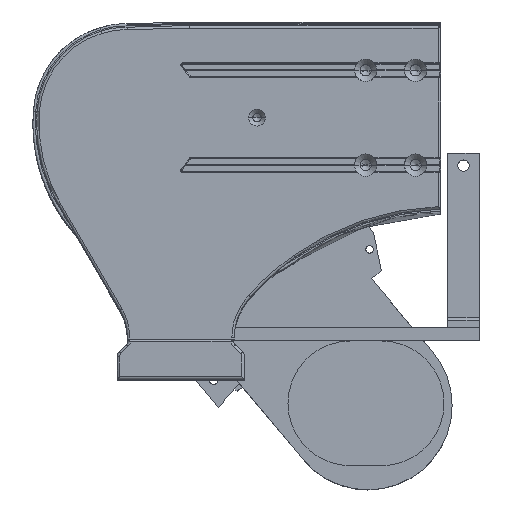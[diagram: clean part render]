
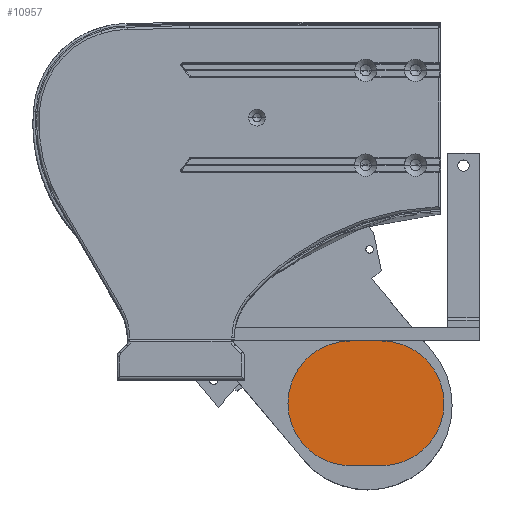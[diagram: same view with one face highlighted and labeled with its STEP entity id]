
A CAD part, top view. The second image highlights one B-rep face of the part: STEP entity #10957.
In plain terms, the highlighted planar face has unit normal (0, 0, 1).
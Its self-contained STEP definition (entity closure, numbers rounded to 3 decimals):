
#1140 = CIRCLE ( 'NONE', #23601, 65.5 ) ;
#1924 = VECTOR ( 'NONE', #9884, 1000. ) ;
#2427 = DIRECTION ( 'NONE',  ( 1., 0., 0. ) ) ;
#3298 = VECTOR ( 'NONE', #8084, 1000. ) ;
#4469 = VERTEX_POINT ( 'NONE', #7620 ) ;
#5549 = CARTESIAN_POINT ( 'NONE',  ( 50.176, 42.102, -318. ) ) ;
#5602 = CARTESIAN_POINT ( 'NONE',  ( 243.011, -187.712, -318. ) ) ;
#6542 = DIRECTION ( 'NONE',  ( 1., 0., 0. ) ) ;
#7346 = PLANE ( 'NONE',  #8934 ) ;
#7620 = CARTESIAN_POINT ( 'NONE',  ( -50.176, -42.102, -318. ) ) ;
#8084 = DIRECTION ( 'NONE',  ( -0.643, 0.766, 0. ) ) ;
#8934 = AXIS2_PLACEMENT_3D ( 'NONE', #18638, #11672, #18444 ) ;
#9884 = DIRECTION ( 'NONE',  ( 0.643, -0.766, 0. ) ) ;
#10073 = LINE ( 'NONE', #5602, #3298 ) ;
#10698 = ORIENTED_EDGE ( 'NONE', *, *, #27674, .T. ) ;
#10833 = CARTESIAN_POINT ( 'NONE',  ( 192.835, -229.814, -318. ) ) ;
#10857 = LINE ( 'NONE', #28156, #1924 ) ;
#10957 = ADVANCED_FACE ( 'NONE', ( #11741 ), #7346, .T. ) ;
#11305 = CARTESIAN_POINT ( 'NONE',  ( 0., 0., -318. ) ) ;
#11672 = DIRECTION ( 'NONE',  ( 0., 0., 1. ) ) ;
#11741 = FACE_OUTER_BOUND ( 'NONE', #13144, .T. ) ;
#13144 = EDGE_LOOP ( 'NONE', ( #19956, #10698, #25875, #17906, #21312 ) ) ;
#13602 = CIRCLE ( 'NONE', #20327, 65.5 ) ;
#17826 = DIRECTION ( 'NONE',  ( 0., 0., 1. ) ) ;
#17906 = ORIENTED_EDGE ( 'NONE', *, *, #29567, .T. ) ;
#18444 = DIRECTION ( 'NONE',  ( 1., 0., 0. ) ) ;
#18638 = CARTESIAN_POINT ( 'NONE',  ( 0., 0., -318. ) ) ;
#18837 = VERTEX_POINT ( 'NONE', #5549 ) ;
#19103 = VERTEX_POINT ( 'NONE', #29388 ) ;
#19703 = AXIS2_PLACEMENT_3D ( 'NONE', #11305, #22897, #29455 ) ;
#19956 = ORIENTED_EDGE ( 'NONE', *, *, #23333, .T. ) ;
#20327 = AXIS2_PLACEMENT_3D ( 'NONE', #10833, #17826, #6542 ) ;
#21282 = EDGE_CURVE ( 'NONE', #28773, #18837, #10073, .T. ) ;
#21312 = ORIENTED_EDGE ( 'NONE', *, *, #21282, .T. ) ;
#22897 = DIRECTION ( 'NONE',  ( 0., 0., 1. ) ) ;
#23333 = EDGE_CURVE ( 'NONE', #18837, #4469, #24255, .T. ) ;
#23343 = CARTESIAN_POINT ( 'NONE',  ( 243.011, -187.712, -318. ) ) ;
#23601 = AXIS2_PLACEMENT_3D ( 'NONE', #25224, #29608, #2427 ) ;
#24255 = CIRCLE ( 'NONE', #19703, 65.5 ) ;
#25224 = CARTESIAN_POINT ( 'NONE',  ( 192.835, -229.814, -318. ) ) ;
#25294 = VERTEX_POINT ( 'NONE', #27187 ) ;
#25875 = ORIENTED_EDGE ( 'NONE', *, *, #28539, .T. ) ;
#27187 = CARTESIAN_POINT ( 'NONE',  ( 258.335, -229.814, -318. ) ) ;
#27674 = EDGE_CURVE ( 'NONE', #4469, #19103, #10857, .T. ) ;
#28156 = CARTESIAN_POINT ( 'NONE',  ( -50.176, -42.102, -318. ) ) ;
#28539 = EDGE_CURVE ( 'NONE', #19103, #25294, #1140, .T. ) ;
#28773 = VERTEX_POINT ( 'NONE', #23343 ) ;
#29388 = CARTESIAN_POINT ( 'NONE',  ( 142.659, -271.917, -318. ) ) ;
#29455 = DIRECTION ( 'NONE',  ( 1., 0., 0. ) ) ;
#29567 = EDGE_CURVE ( 'NONE', #25294, #28773, #13602, .T. ) ;
#29608 = DIRECTION ( 'NONE',  ( 0., 0., 1. ) ) ;
